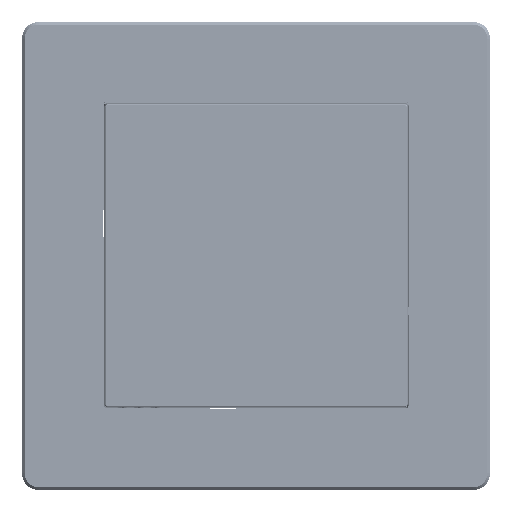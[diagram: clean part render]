
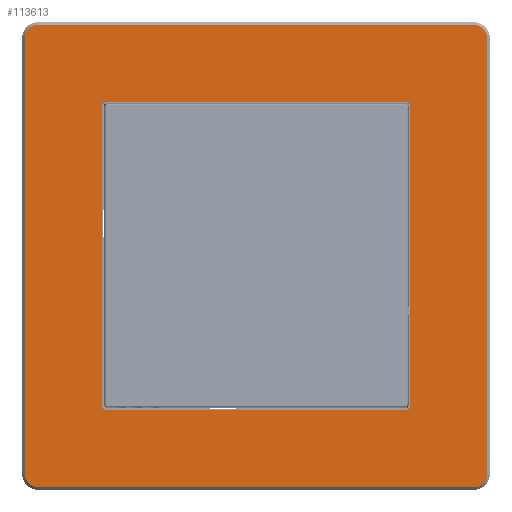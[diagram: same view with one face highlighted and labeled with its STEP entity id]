
A CAD part, top view. The second image highlights one B-rep face of the part: STEP entity #113613.
In plain terms, the highlighted planar face has unit normal (0, 0, 1) as drawn and (0, 1, 0) by its records, which use the part's own axes.
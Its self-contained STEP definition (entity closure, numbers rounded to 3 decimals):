
#6554=CIRCLE('',#121029,2.5);
#6556=CIRCLE('',#121033,2.5);
#6557=CIRCLE('',#121036,2.5);
#6558=CIRCLE('',#121039,2.5);
#6559=CIRCLE('',#121044,0.5);
#6560=CIRCLE('',#121045,0.5);
#6561=CIRCLE('',#121046,0.5);
#6562=CIRCLE('',#121047,0.5);
#9927=FACE_BOUND('',#20509,.T.);
#13843=FACE_OUTER_BOUND('',#20508,.T.);
#20508=EDGE_LOOP('',(#86660,#86661,#86662,#86663,#86664,#86665,#86666,#86667));
#20509=EDGE_LOOP('',(#86668,#86669,#86670,#86671,#86672,#86673,#86674,#86675));
#30233=LINE('',#179701,#40738);
#30237=LINE('',#179713,#40742);
#30241=LINE('',#179724,#40746);
#30245=LINE('',#179733,#40750);
#30249=LINE('',#179745,#40754);
#30250=LINE('',#179749,#40755);
#30251=LINE('',#179753,#40756);
#30252=LINE('',#179757,#40757);
#40738=VECTOR('',#136720,79.);
#40742=VECTOR('',#136732,79.);
#40746=VECTOR('',#136744,79.);
#40750=VECTOR('',#136754,79.);
#40754=VECTOR('',#136770,54.8);
#40755=VECTOR('',#136773,54.8);
#40756=VECTOR('',#136776,54.8);
#40757=VECTOR('',#136779,54.8);
#51205=VERTEX_POINT('',#179698);
#51206=VERTEX_POINT('',#179700);
#51208=VERTEX_POINT('',#179706);
#51210=VERTEX_POINT('',#179711);
#51212=VERTEX_POINT('',#179718);
#51213=VERTEX_POINT('',#179722);
#51214=VERTEX_POINT('',#179727);
#51215=VERTEX_POINT('',#179731);
#51216=VERTEX_POINT('',#179743);
#51217=VERTEX_POINT('',#179744);
#51218=VERTEX_POINT('',#179746);
#51219=VERTEX_POINT('',#179748);
#51220=VERTEX_POINT('',#179750);
#51221=VERTEX_POINT('',#179752);
#51222=VERTEX_POINT('',#179754);
#51223=VERTEX_POINT('',#179756);
#64836=EDGE_CURVE('',#51205,#51206,#30233,.T.);
#64840=EDGE_CURVE('',#51208,#51205,#6554,.T.);
#64842=EDGE_CURVE('',#51210,#51208,#30237,.T.);
#64846=EDGE_CURVE('',#51212,#51210,#6556,.T.);
#64848=EDGE_CURVE('',#51213,#51212,#30241,.T.);
#64851=EDGE_CURVE('',#51214,#51213,#6557,.T.);
#64853=EDGE_CURVE('',#51215,#51214,#30245,.T.);
#64854=EDGE_CURVE('',#51206,#51215,#6558,.T.);
#64858=EDGE_CURVE('',#51216,#51217,#30249,.T.);
#64859=EDGE_CURVE('',#51218,#51217,#6559,.T.);
#64860=EDGE_CURVE('',#51218,#51219,#30250,.T.);
#64861=EDGE_CURVE('',#51220,#51219,#6560,.T.);
#64862=EDGE_CURVE('',#51220,#51221,#30251,.T.);
#64863=EDGE_CURVE('',#51222,#51221,#6561,.T.);
#64864=EDGE_CURVE('',#51222,#51223,#30252,.T.);
#64865=EDGE_CURVE('',#51216,#51223,#6562,.T.);
#86660=ORIENTED_EDGE('',*,*,#64836,.F.);
#86661=ORIENTED_EDGE('',*,*,#64840,.F.);
#86662=ORIENTED_EDGE('',*,*,#64842,.F.);
#86663=ORIENTED_EDGE('',*,*,#64846,.F.);
#86664=ORIENTED_EDGE('',*,*,#64848,.F.);
#86665=ORIENTED_EDGE('',*,*,#64851,.F.);
#86666=ORIENTED_EDGE('',*,*,#64853,.F.);
#86667=ORIENTED_EDGE('',*,*,#64854,.F.);
#86668=ORIENTED_EDGE('',*,*,#64858,.T.);
#86669=ORIENTED_EDGE('',*,*,#64859,.F.);
#86670=ORIENTED_EDGE('',*,*,#64860,.T.);
#86671=ORIENTED_EDGE('',*,*,#64861,.F.);
#86672=ORIENTED_EDGE('',*,*,#64862,.T.);
#86673=ORIENTED_EDGE('',*,*,#64863,.F.);
#86674=ORIENTED_EDGE('',*,*,#64864,.T.);
#86675=ORIENTED_EDGE('',*,*,#64865,.F.);
#109321=PLANE('',#121043);
#113613=ADVANCED_FACE('',(#13843,#9927),#109321,.T.);
#121029=AXIS2_PLACEMENT_3D('',#179708,#136727,#136728);
#121033=AXIS2_PLACEMENT_3D('',#179720,#136739,#136740);
#121036=AXIS2_PLACEMENT_3D('',#179729,#136749,#136750);
#121039=AXIS2_PLACEMENT_3D('',#179735,#136757,#136758);
#121043=AXIS2_PLACEMENT_3D('',#179742,#136768,#136769);
#121044=AXIS2_PLACEMENT_3D('',#179747,#136771,#136772);
#121045=AXIS2_PLACEMENT_3D('',#179751,#136774,#136775);
#121046=AXIS2_PLACEMENT_3D('',#179755,#136777,#136778);
#121047=AXIS2_PLACEMENT_3D('',#179758,#136780,#136781);
#136720=DIRECTION('',(1.,0.,0.));
#136727=DIRECTION('center_axis',(0.,-1.,0.));
#136728=DIRECTION('ref_axis',(-0.707,0.,-0.707));
#136732=DIRECTION('',(0.,0.,-1.));
#136739=DIRECTION('center_axis',(0.,-1.,0.));
#136740=DIRECTION('ref_axis',(-0.707,0.,0.707));
#136744=DIRECTION('',(-1.,0.,0.));
#136749=DIRECTION('center_axis',(0.,-1.,0.));
#136750=DIRECTION('ref_axis',(0.707,0.,0.707));
#136754=DIRECTION('',(0.,0.,1.));
#136757=DIRECTION('center_axis',(0.,-1.,0.));
#136758=DIRECTION('ref_axis',(0.707,0.,-0.707));
#136768=DIRECTION('center_axis',(0.,1.,0.));
#136769=DIRECTION('ref_axis',(0.,0.,1.));
#136770=DIRECTION('',(0.,0.,-1.));
#136771=DIRECTION('center_axis',(0.,1.,0.));
#136772=DIRECTION('ref_axis',(-0.707,0.,-0.707));
#136773=DIRECTION('',(1.,0.,0.));
#136774=DIRECTION('center_axis',(0.,1.,0.));
#136775=DIRECTION('ref_axis',(0.707,0.,-0.707));
#136776=DIRECTION('',(0.,0.,1.));
#136777=DIRECTION('center_axis',(0.,1.,0.));
#136778=DIRECTION('ref_axis',(0.707,0.,0.707));
#136779=DIRECTION('',(-1.,0.,0.));
#136780=DIRECTION('center_axis',(0.,1.,0.));
#136781=DIRECTION('ref_axis',(-0.707,0.,0.707));
#179698=CARTESIAN_POINT('',(-49.5,8.5,-77.4));
#179700=CARTESIAN_POINT('',(29.5,8.5,-77.4));
#179701=CARTESIAN_POINT('',(-49.5,8.5,-77.4));
#179706=CARTESIAN_POINT('',(-52.,8.5,-74.9));
#179708=CARTESIAN_POINT('Origin',(-49.5,8.5,-74.9));
#179711=CARTESIAN_POINT('',(-52.,8.5,4.1));
#179713=CARTESIAN_POINT('',(-52.,8.5,4.1));
#179718=CARTESIAN_POINT('',(-49.5,8.5,6.6));
#179720=CARTESIAN_POINT('Origin',(-49.5,8.5,4.1));
#179722=CARTESIAN_POINT('',(29.5,8.5,6.6));
#179724=CARTESIAN_POINT('',(29.5,8.5,6.6));
#179727=CARTESIAN_POINT('',(32.,8.5,4.1));
#179729=CARTESIAN_POINT('Origin',(29.5,8.5,4.1));
#179731=CARTESIAN_POINT('',(32.,8.5,-74.9));
#179733=CARTESIAN_POINT('',(32.,8.5,-74.9));
#179735=CARTESIAN_POINT('Origin',(29.5,8.5,-74.9));
#179742=CARTESIAN_POINT('Origin',(-10.,8.5,-35.4));
#179743=CARTESIAN_POINT('',(-37.9,8.5,-8.));
#179744=CARTESIAN_POINT('',(-37.9,8.5,-62.8));
#179745=CARTESIAN_POINT('',(-37.9,8.5,-8.));
#179746=CARTESIAN_POINT('',(-37.4,8.5,-63.3));
#179747=CARTESIAN_POINT('Origin',(-37.4,8.5,-62.8));
#179748=CARTESIAN_POINT('',(17.4,8.5,-63.3));
#179749=CARTESIAN_POINT('',(-37.4,8.5,-63.3));
#179750=CARTESIAN_POINT('',(17.9,8.5,-62.8));
#179751=CARTESIAN_POINT('Origin',(17.4,8.5,-62.8));
#179752=CARTESIAN_POINT('',(17.9,8.5,-8.));
#179753=CARTESIAN_POINT('',(17.9,8.5,-62.8));
#179754=CARTESIAN_POINT('',(17.4,8.5,-7.5));
#179755=CARTESIAN_POINT('Origin',(17.4,8.5,-8.));
#179756=CARTESIAN_POINT('',(-37.4,8.5,-7.5));
#179757=CARTESIAN_POINT('',(17.4,8.5,-7.5));
#179758=CARTESIAN_POINT('Origin',(-37.4,8.5,-8.));
